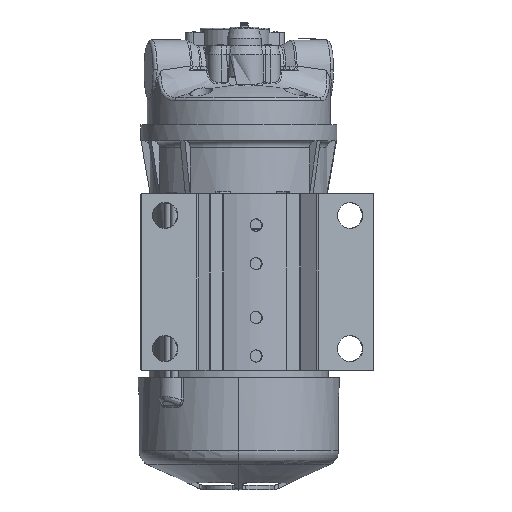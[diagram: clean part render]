
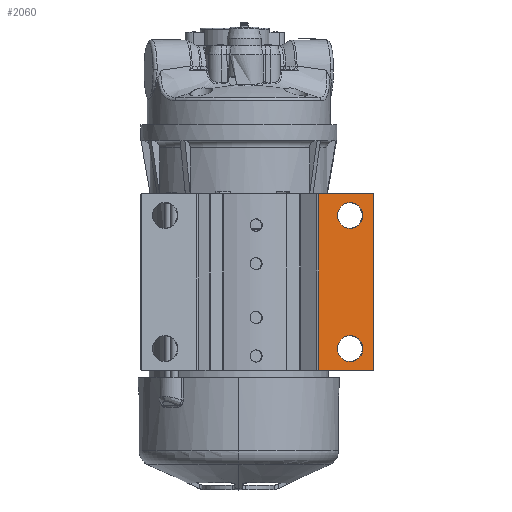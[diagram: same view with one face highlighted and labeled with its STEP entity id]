
A CAD part, top view. The second image highlights one B-rep face of the part: STEP entity #2060.
In plain terms, the highlighted planar face has unit normal (0.195, 0, 0.981).
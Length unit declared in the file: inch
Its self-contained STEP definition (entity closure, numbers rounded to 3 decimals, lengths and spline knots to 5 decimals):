
#2060 = ADVANCED_FACE( ' TRM_SRF', ( #4790, #4791, #4792 ), #4793, .T. );
#4790 = FACE_BOUND( '', #8887, .T. );
#4791 = FACE_BOUND( '', #8888, .T. );
#4792 = FACE_OUTER_BOUND( '', #8889, .T. );
#4793 = PLANE( '', #8890 );
#8887 = EDGE_LOOP( '', ( #14430 ) );
#8888 = EDGE_LOOP( '', ( #14431 ) );
#8889 = EDGE_LOOP( '', ( #14432, #14433, #14434, #14435, #14436, #14437 ) );
#8890 = AXIS2_PLACEMENT_3D( '', #14438, #14439, #14440 );
#14430 = ORIENTED_EDGE( '', *, *, #19445, .T. );
#14431 = ORIENTED_EDGE( '', *, *, #19248, .T. );
#14432 = ORIENTED_EDGE( '', *, *, #19687, .T. );
#14433 = ORIENTED_EDGE( '', *, *, #19688, .T. );
#14434 = ORIENTED_EDGE( '', *, *, #19689, .T. );
#14435 = ORIENTED_EDGE( '', *, *, #19690, .T. );
#14436 = ORIENTED_EDGE( '', *, *, #19691, .T. );
#14437 = ORIENTED_EDGE( '', *, *, #19692, .T. );
#14438 = CARTESIAN_POINT( '', ( 1.33592, -0.7868, 1.46832 ) );
#14439 = DIRECTION( '', ( 0.195, 0., 0.981 ) );
#14440 = DIRECTION( '', ( 0.981, 0., -0.195 ) );
#19248 = EDGE_CURVE( '', #23203, #23203, #23204, .F. );
#19445 = EDGE_CURVE( '', #23560, #23560, #23561, .F. );
#19687 = EDGE_CURVE( '', #23997, #23998, #23999, .T. );
#19688 = EDGE_CURVE( '', #23998, #24000, #24001, .T. );
#19689 = EDGE_CURVE( '', #24000, #24002, #24003, .F. );
#19690 = EDGE_CURVE( '', #24002, #23381, #24004, .F. );
#19691 = EDGE_CURVE( '', #23381, #24005, #24006, .F. );
#19692 = EDGE_CURVE( '', #24005, #23997, #24007, .T. );
#23203 = VERTEX_POINT( '', #31004 );
#23204 = CIRCLE( '', #31005, 0.219 );
#23381 = VERTEX_POINT( '', #31528 );
#23560 = VERTEX_POINT( '', #32233 );
#23561 = CIRCLE( '', #32234, 0.219 );
#23997 = VERTEX_POINT( '', #33569 );
#23998 = VERTEX_POINT( '', #33570 );
#23999 = CIRCLE( '', #33571, 0.015 );
#24000 = VERTEX_POINT( '', #33572 );
#24001 = LINE( '', #33573, #33574 );
#24002 = VERTEX_POINT( '', #33575 );
#24003 = CIRCLE( '', #33576, 0.015 );
#24004 = LINE( '', #33577, #33578 );
#24005 = VERTEX_POINT( '', #33579 );
#24006 = LINE( '', #33580, #33581 );
#24007 = LINE( '', #33582, #33583 );
#31004 = CARTESIAN_POINT( '', ( 2.09794, -0.357, 1.31673 ) );
#31005 = AXIS2_PLACEMENT_3D( '', #49812, #49813, #49814 );
#31528 = CARTESIAN_POINT( '', ( 1.35436, 2.263, 1.46465 ) );
#32233 = CARTESIAN_POINT( '', ( 2.09794, 1.893, 1.31673 ) );
#32234 = AXIS2_PLACEMENT_3D( '', #50000, #50001, #50002 );
#33569 = CARTESIAN_POINT( '', ( 2.26173, -0.727, 1.28414 ) );
#33570 = CARTESIAN_POINT( '', ( 2.27644, -0.712, 1.28122 ) );
#33571 = AXIS2_PLACEMENT_3D( '', #50217, #50218, #50219 );
#33572 = CARTESIAN_POINT( '', ( 2.27644, 2.248, 1.28122 ) );
#33573 = CARTESIAN_POINT( '', ( 2.27644, -0.7868, 1.28122 ) );
#33574 = VECTOR( '', #50220, 39.37008 );
#33575 = CARTESIAN_POINT( '', ( 2.26173, 2.263, 1.28414 ) );
#33576 = AXIS2_PLACEMENT_3D( '', #50221, #50222, #50223 );
#33577 = CARTESIAN_POINT( '', ( 1.33592, 2.263, 1.46832 ) );
#33578 = VECTOR( '', #50224, 39.37008 );
#33579 = CARTESIAN_POINT( '', ( 1.35436, -0.727, 1.46465 ) );
#33580 = CARTESIAN_POINT( '', ( 1.35436, -0.7868, 1.46465 ) );
#33581 = VECTOR( '', #50225, 39.37008 );
#33582 = CARTESIAN_POINT( '', ( 1.33592, -0.727, 1.46832 ) );
#33583 = VECTOR( '', #50226, 39.37008 );
#49812 = CARTESIAN_POINT( '', ( 1.88315, -0.357, 1.35946 ) );
#49813 = DIRECTION( '', ( 0.195, 0., 0.981 ) );
#49814 = DIRECTION( '', ( 0.981, 0., -0.195 ) );
#50000 = CARTESIAN_POINT( '', ( 1.88315, 1.893, 1.35946 ) );
#50001 = DIRECTION( '', ( 0.195, 0., 0.981 ) );
#50002 = DIRECTION( '', ( 0.981, 0., -0.195 ) );
#50217 = CARTESIAN_POINT( '', ( 2.26173, -0.712, 1.28414 ) );
#50218 = DIRECTION( '', ( 0.195, 0., 0.981 ) );
#50219 = DIRECTION( '', ( 0.981, 0., -0.195 ) );
#50220 = DIRECTION( '', ( 0., 1., 0. ) );
#50221 = CARTESIAN_POINT( '', ( 2.26173, 2.248, 1.28414 ) );
#50222 = DIRECTION( '', ( -0.195, 0., -0.981 ) );
#50223 = DIRECTION( '', ( -0.981, 0., 0.195 ) );
#50224 = DIRECTION( '', ( 0.981, 0., -0.195 ) );
#50225 = DIRECTION( '', ( 0., 1., 0. ) );
#50226 = DIRECTION( '', ( 0.981, 0., -0.195 ) );
